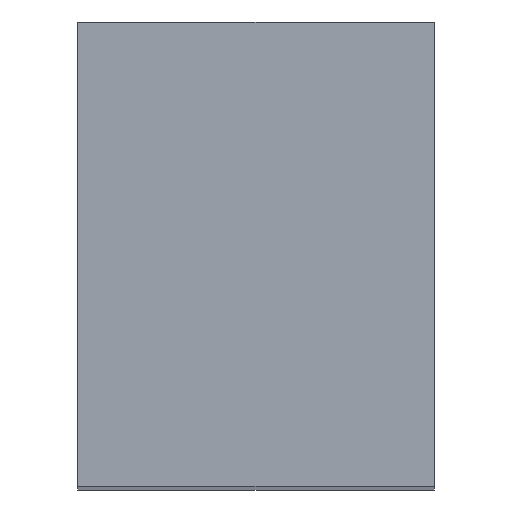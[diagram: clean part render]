
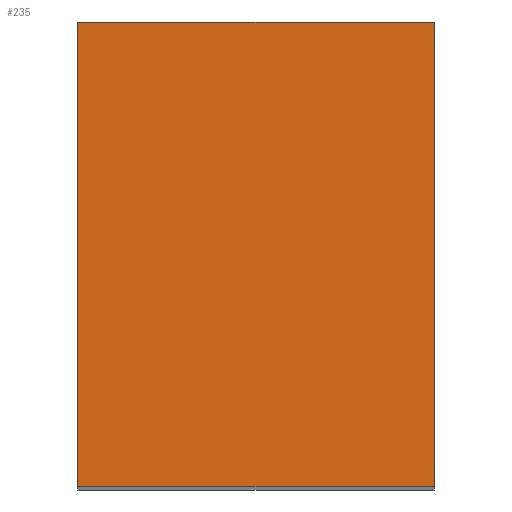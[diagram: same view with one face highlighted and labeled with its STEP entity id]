
A CAD part, top view. The second image highlights one B-rep face of the part: STEP entity #235.
In plain terms, the highlighted planar face has unit normal (0, 0, 1).
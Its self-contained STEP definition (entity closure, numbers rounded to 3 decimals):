
#25=FACE_OUTER_BOUND('',#39,.T.);
#39=EDGE_LOOP('',(#197,#198,#199,#200));
#63=LINE('',#368,#93);
#69=LINE('',#379,#99);
#70=LINE('',#382,#100);
#71=LINE('',#383,#101);
#93=VECTOR('',#302,10.);
#99=VECTOR('',#312,10.);
#100=VECTOR('',#315,10.);
#101=VECTOR('',#316,10.);
#117=VERTEX_POINT('',#365);
#118=VERTEX_POINT('',#367);
#121=VERTEX_POINT('',#377);
#122=VERTEX_POINT('',#381);
#143=EDGE_CURVE('',#117,#118,#63,.T.);
#149=EDGE_CURVE('',#121,#118,#69,.T.);
#150=EDGE_CURVE('',#122,#121,#70,.T.);
#151=EDGE_CURVE('',#122,#117,#71,.T.);
#197=ORIENTED_EDGE('',*,*,#150,.T.);
#198=ORIENTED_EDGE('',*,*,#149,.T.);
#199=ORIENTED_EDGE('',*,*,#143,.F.);
#200=ORIENTED_EDGE('',*,*,#151,.F.);
#222=PLANE('',#262);
#235=ADVANCED_FACE('',(#25),#222,.T.);
#262=AXIS2_PLACEMENT_3D('',#380,#313,#314);
#302=DIRECTION('',(1.,0.,0.));
#312=DIRECTION('',(0.,1.,0.));
#313=DIRECTION('center_axis',(0.,0.,1.));
#314=DIRECTION('ref_axis',(1.,0.,0.));
#315=DIRECTION('',(1.,0.,0.));
#316=DIRECTION('',(0.,1.,0.));
#365=CARTESIAN_POINT('',(0.,43.,0.));
#367=CARTESIAN_POINT('',(33.,43.,0.));
#368=CARTESIAN_POINT('',(0.,43.,0.));
#377=CARTESIAN_POINT('',(33.,0.,0.));
#379=CARTESIAN_POINT('',(33.,0.,0.));
#380=CARTESIAN_POINT('Origin',(0.,0.,0.));
#381=CARTESIAN_POINT('',(0.,0.,0.));
#382=CARTESIAN_POINT('',(0.,0.,0.));
#383=CARTESIAN_POINT('',(0.,0.,0.));
